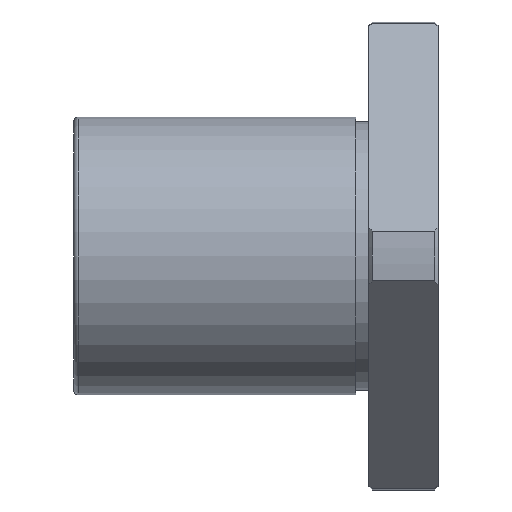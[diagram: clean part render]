
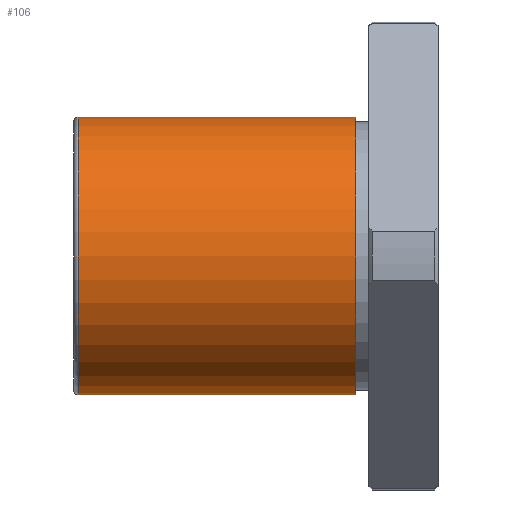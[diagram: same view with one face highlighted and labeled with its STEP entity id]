
A CAD part, front view. The second image highlights one B-rep face of the part: STEP entity #106.
In plain terms, the highlighted cylindrical face has radius 16 mm (diameter 32 mm), a full revolution.
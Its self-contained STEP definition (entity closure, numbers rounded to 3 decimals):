
#106=ADVANCED_FACE('',(#198,#199),#200,.T.);
#198=FACE_OUTER_BOUND('',#298,.T.);
#199=FACE_OUTER_BOUND('',#299,.T.);
#200=CYLINDRICAL_SURFACE('',#300,16.0);
#298=EDGE_LOOP('',(#531));
#299=EDGE_LOOP('',(#532));
#300=AXIS2_PLACEMENT_3D('',#533,#534,#535);
#531=ORIENTED_EDGE('',*,*,#630,.F.);
#532=ORIENTED_EDGE('',*,*,#609,.T.);
#533=CARTESIAN_POINT('',(-25.5,0.,0.0));
#534=DIRECTION('',(1.0,-0.0,0.));
#535=DIRECTION('',(0.0,1.0,0.0));
#609=EDGE_CURVE('',#718,#718,#719,.T.);
#630=EDGE_CURVE('',#754,#754,#755,.T.);
#718=VERTEX_POINT('',#981);
#719=CIRCLE('',#982,16.0);
#754=VERTEX_POINT('',#1039);
#755=CIRCLE('',#1040,16.0);
#981=CARTESIAN_POINT('',(-41.5,16.0,0.));
#982=AXIS2_PLACEMENT_3D('',#1122,#1123,#1124);
#1039=CARTESIAN_POINT('',(-9.5,16.0,0.0));
#1040=AXIS2_PLACEMENT_3D('',#1171,#1172,#1173);
#1122=CARTESIAN_POINT('',(-41.5,0.,0.));
#1123=DIRECTION('',(1.0,0.0,0.));
#1124=DIRECTION('',(0.0,1.0,0.0));
#1171=CARTESIAN_POINT('',(-9.5,0.0,0.0));
#1172=DIRECTION('',(1.0,0.0,0.));
#1173=DIRECTION('',(0.0,1.0,0.0));
